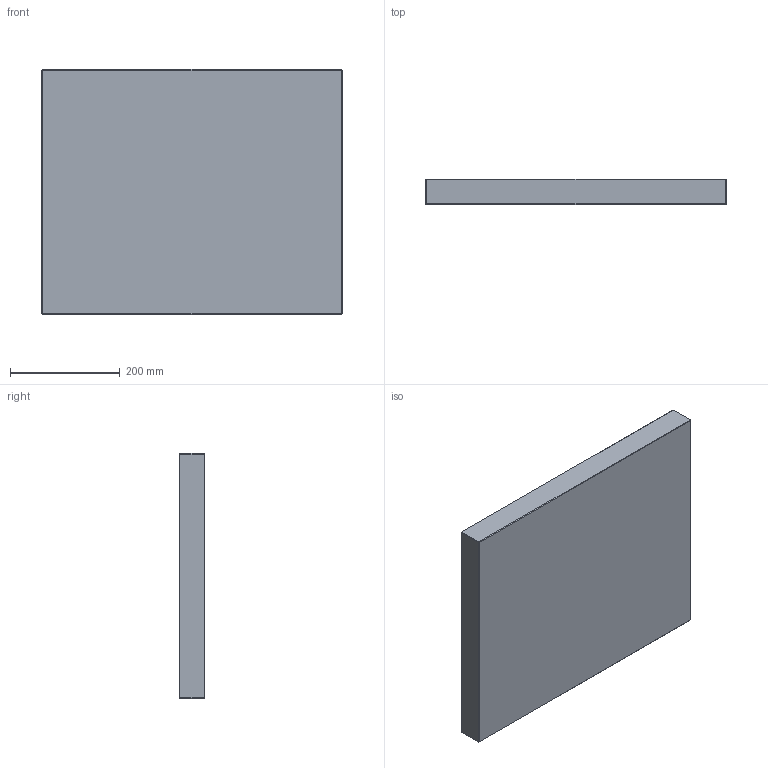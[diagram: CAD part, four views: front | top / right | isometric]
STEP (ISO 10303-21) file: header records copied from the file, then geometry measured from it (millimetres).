
FILE_DESCRIPTION (( 'STEP AP214' ), '1' );
FILE_NAME ('PBA-P-446x446x46.STEP', '2020-03-11T15:57:31', ( 'August' ), ( '' ), 'SwSTEP 2.0', 'SolidWorks 2018', '' );
FILE_SCHEMA (( 'AUTOMOTIVE_DESIGN' ));
Length unit declared in the file: millimetre
Products named in the file (1): PBA-P-446x446x46
Bounding box: 546 x 46 x 446 mm (x, y, z)
Volume: 11199665.3 mm3; surface area: 575860.8 mm2
Topology: 1 solids, 1 shells, 26 faces, 48 edges, 24 vertices
Faces by surface type: plane 26
Entity records: 634 total; most frequent: DIRECTION 102, CARTESIAN_POINT 99, ORIENTED_EDGE 96, LINE 48, EDGE_CURVE 48, VECTOR 48, AXIS2_PLACEMENT_3D 27, EDGE_LOOP 26
